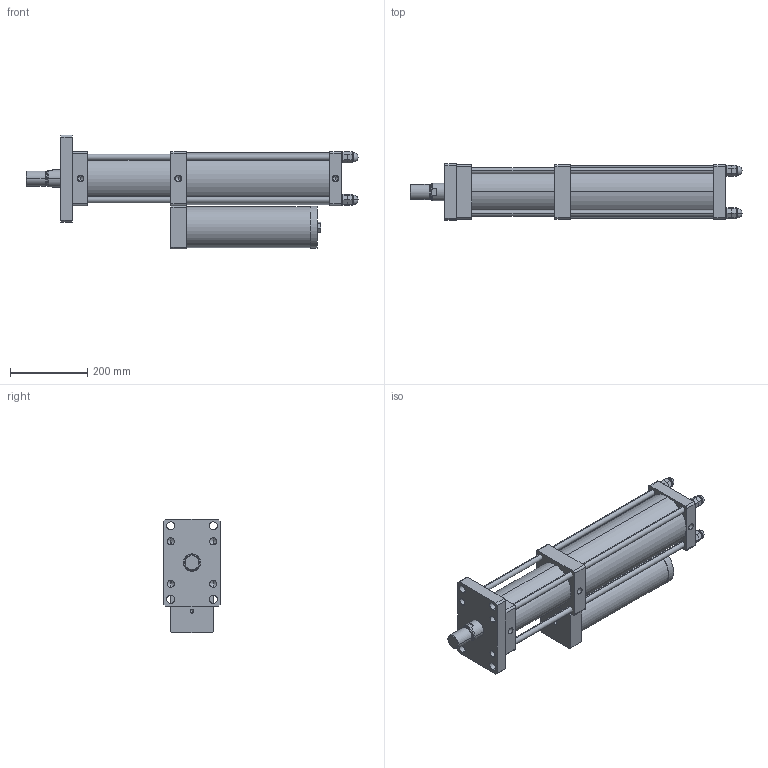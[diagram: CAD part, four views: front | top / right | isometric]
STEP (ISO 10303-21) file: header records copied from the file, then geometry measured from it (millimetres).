
FILE_DESCRIPTION (( 'STEP AP203' ), '1' );
FILE_NAME ('MPT-100-150-20-13T.STEP', '2016-03-28T10:20:58', ( 'WIN' ), ( '' ), 'SwSTEP 2.0', 'SolidWorks 2014', '' );
FILE_SCHEMA (( 'CONFIG_CONTROL_DESIGN' ));
Length unit declared in the file: millimetre
Products named in the file (1): MPT-100-150-20-13T
Bounding box: 859 x 145 x 294.5 mm (x, y, z)
Volume: 14664195.1 mm3; surface area: 861623.3 mm2
Topology: 13 solids, 13 shells, 400 faces, 980 edges, 555 vertices
Faces by surface type: plane 188, cylinder 80, torus 48, bspline 48, cone 36
Entity records: 12751 total; most frequent: CARTESIAN_POINT 3688, DIRECTION 1936, ORIENTED_EDGE 1812, EDGE_CURVE 906, AXIS2_PLACEMENT_3D 727, VERTEX_POINT 555, VECTOR 482, LINE 482
